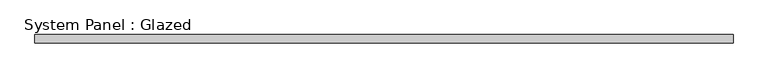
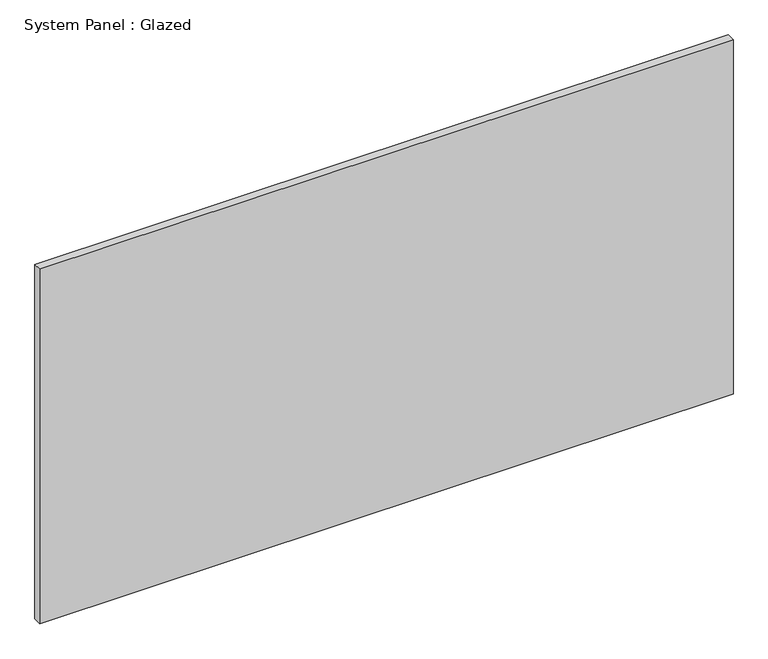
"""IFC4 building model written with IfcOpenShell, lengths in millimetres: plate geometry, System Panel : Glazed."""

from ifc_helpers import new_model, si_unit, origin, origin_with_axes, place, context, project, spatial, polyline, outline, extrude, source, transform, mapped, element, save


def system_panel_glazed_da5fadb4(model_context):
    return source(origin(), model_context, "Body", "SweptSolid", [
        extrude(outline(polyline([(1062.7434555, 24.5), (-1062.7434555, 24.5), (-1062.7434555, 49.5), (1062.7434555, 49.5), (1062.7434555, 24.5)])), origin_with_axes(), (0.0, 0.0, 1.0), 1150.0),
    ])


if __name__ == "__main__":
    model = new_model("IFC4")
    model_context = context("Model", 3, world=origin())
    ifc_project = project(units=[si_unit("LENGTHUNIT", "METRE", prefix="MILLI")], contexts=[model_context])
    site = spatial("IfcSite", under=ifc_project)
    building = spatial("IfcBuilding", under=site)
    placement = place(None, origin())
    system_panel_glazed_shape = system_panel_glazed_da5fadb4(model_context)
    element("IfcPlate", 1, ObjectType="System Panel : Glazed", at=placement, inside=building, context=model_context, shape_type="MappedRepresentation", body=[
        mapped(system_panel_glazed_shape, transform((0.0, 0.0, 0.0), x_axis=(1.0, 0.0, 0.0), y_axis=(0.0, 1.0, 0.0), z_axis=(0.0, 0.0, 1.0))),
    ])
    save(model, "model.ifc")
